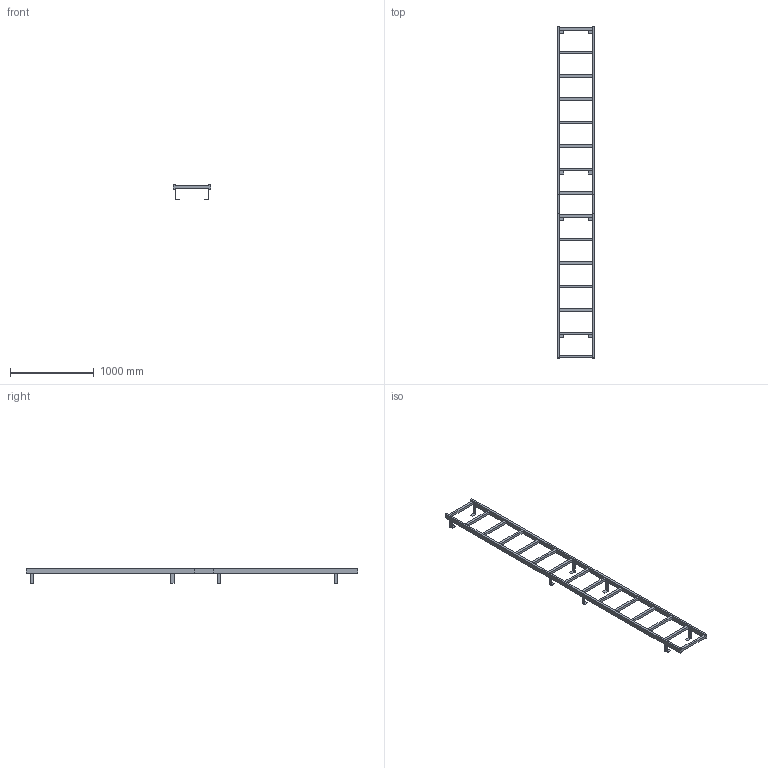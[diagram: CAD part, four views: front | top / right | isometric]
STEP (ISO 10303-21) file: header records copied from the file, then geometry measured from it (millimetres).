
FILE_DESCRIPTION((''),'2;1');
FILE_NAME('52311138','2024-10-17T13:31:39',('wep'),('HUBER SE'),'CREO PARAMETRIC BY PTC INC, 2022162','CREO PARAMETRIC BY PTC INC, 2022162','');
FILE_SCHEMA(('AUTOMOTIVE_DESIGN { 1 0 10303 214 1 1 1 1 }'));
Length unit declared in the file: millimetre
Products named in the file (1): 52311138
Bounding box: 450 x 3970 x 178.5 mm (x, y, z)
Volume: 16843850 mm3; surface area: 2131170.4 mm2
Topology: 4 solids, 4 shells, 156 faces, 444 edges, 288 vertices
Faces by surface type: plane 156
Entity records: 5551 total; most frequent: CARTESIAN_POINT 890, ORIENTED_EDGE 888, DIRECTION 756, VECTOR 444, LINE 444, EDGE_CURVE 444, VERTEX_POINT 288, EDGE_LOOP 174
